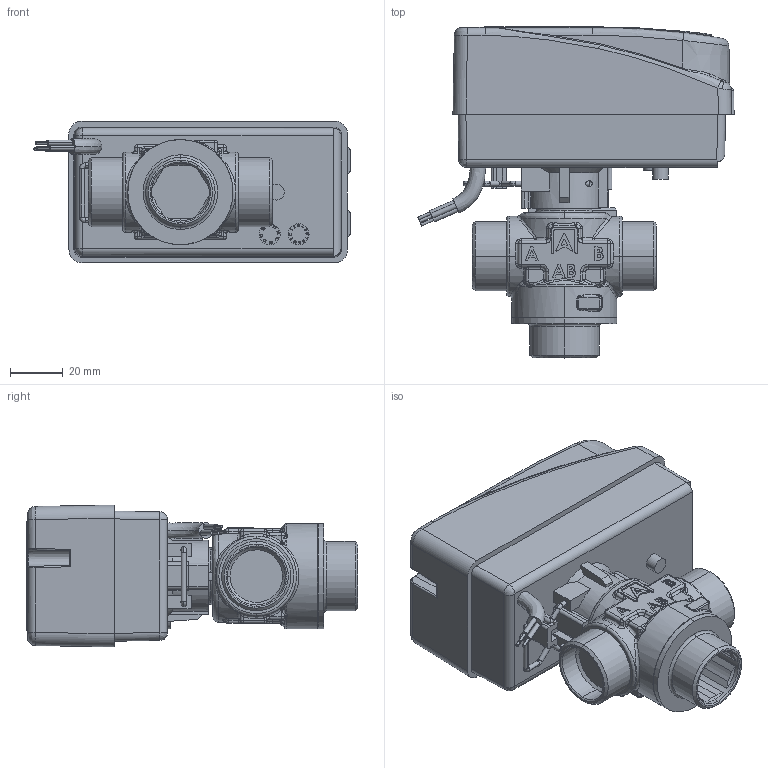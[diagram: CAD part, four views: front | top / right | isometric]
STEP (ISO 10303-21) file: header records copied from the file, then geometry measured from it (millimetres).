
FILE_DESCRIPTION (( 'STEP AP214' ), '1' );
FILE_NAME ('1664200.STEP', '2022-05-18T07:08:18', ( '' ), ( '' ), 'SwSTEP 2.0', 'SolidWorks 2021', '' );
FILE_SCHEMA (( 'AUTOMOTIVE_DESIGN' ));
Length unit declared in the file: millimetre
Products named in the file (1): 1664200
Bounding box: 120.33 x 126.32 x 54 mm (x, y, z)
Volume: 354781.3 mm3; surface area: 52139.3 mm2
Topology: 2 solids, 3 shells, 1644 faces, 4426 edges, 2838 vertices
Faces by surface type: plane 1013, bspline 291, cylinder 273, cone 61, torus 6
Entity records: 78669 total; most frequent: CARTESIAN_POINT 31372, ORIENTED_EDGE 8806, DIRECTION 6811, EDGE_CURVE 4403, LINE 2933, VECTOR 2933, VERTEX_POINT 2838, AXIS2_PLACEMENT_3D 1939
